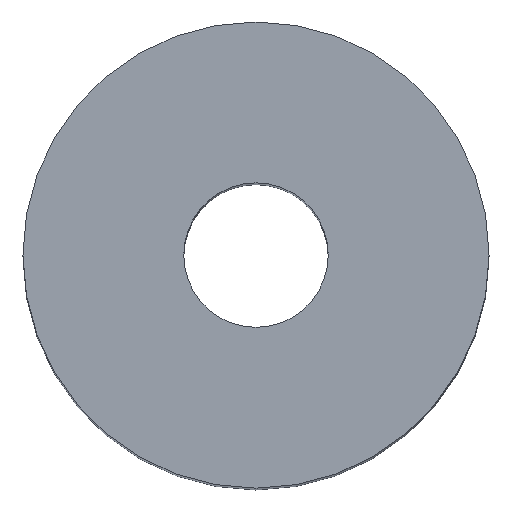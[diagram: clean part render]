
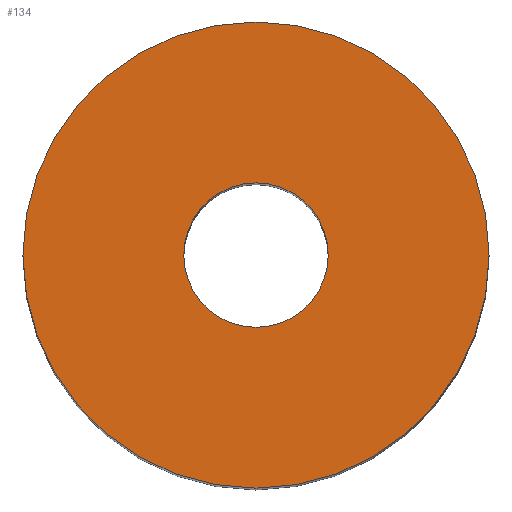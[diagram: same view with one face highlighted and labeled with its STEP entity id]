
A CAD part, top view. The second image highlights one B-rep face of the part: STEP entity #134.
In plain terms, the highlighted planar face has unit normal (0, 0, 1).
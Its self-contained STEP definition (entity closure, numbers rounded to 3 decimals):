
#29=CARTESIAN_POINT('',(0.,0.,22.5));
#30=DIRECTION('',(0.,0.,1.));
#31=DIRECTION('',(1.,0.,0.));
#32=AXIS2_PLACEMENT_3D('',#29,#30,#31);
#34=CARTESIAN_POINT('',(0.,0.,22.5));
#35=DIRECTION('',(0.,0.,1.));
#36=DIRECTION('',(-1.,0.,0.));
#37=AXIS2_PLACEMENT_3D('',#34,#35,#36);
#39=CARTESIAN_POINT('',(0.,0.,22.5));
#40=DIRECTION('',(0.,0.,-1.));
#41=DIRECTION('',(1.,0.,0.));
#42=AXIS2_PLACEMENT_3D('',#39,#40,#41);
#44=CARTESIAN_POINT('',(0.,0.,22.5));
#45=DIRECTION('',(0.,0.,-1.));
#46=DIRECTION('',(-1.,0.,0.));
#47=AXIS2_PLACEMENT_3D('',#44,#45,#46);
#65=CARTESIAN_POINT('',(10.,0.,22.5));
#66=CARTESIAN_POINT('',(-10.,0.,22.5));
#67=VERTEX_POINT('',#65);
#68=VERTEX_POINT('',#66);
#69=CARTESIAN_POINT('',(3.1,0.,22.5));
#70=CARTESIAN_POINT('',(-3.1,0.,22.5));
#71=VERTEX_POINT('',#69);
#72=VERTEX_POINT('',#70);
#119=CARTESIAN_POINT('',(0.,0.,22.5));
#120=DIRECTION('',(0.,0.,1.));
#121=DIRECTION('',(1.,0.,0.));
#122=AXIS2_PLACEMENT_3D('',#119,#120,#121);
#123=PLANE('',#122);
#124=ORIENTED_EDGE('',*,*,#99,.F.);
#125=ORIENTED_EDGE('',*,*,#113,.F.);
#126=EDGE_LOOP('',(#124,#125));
#127=FACE_OUTER_BOUND('',#126,.F.);
#129=ORIENTED_EDGE('',*,*,#128,.F.);
#131=ORIENTED_EDGE('',*,*,#130,.F.);
#132=EDGE_LOOP('',(#129,#131));
#133=FACE_BOUND('',#132,.F.);
#134=ADVANCED_FACE('',(#127,#133),#123,.T.);
#33=CIRCLE('',#32,10.);
#38=CIRCLE('',#37,10.);
#43=CIRCLE('',#42,3.1);
#48=CIRCLE('',#47,3.1);
#99=EDGE_CURVE('',#67,#68,#33,.T.);
#113=EDGE_CURVE('',#68,#67,#38,.T.);
#128=EDGE_CURVE('',#71,#72,#43,.T.);
#130=EDGE_CURVE('',#72,#71,#48,.T.);
